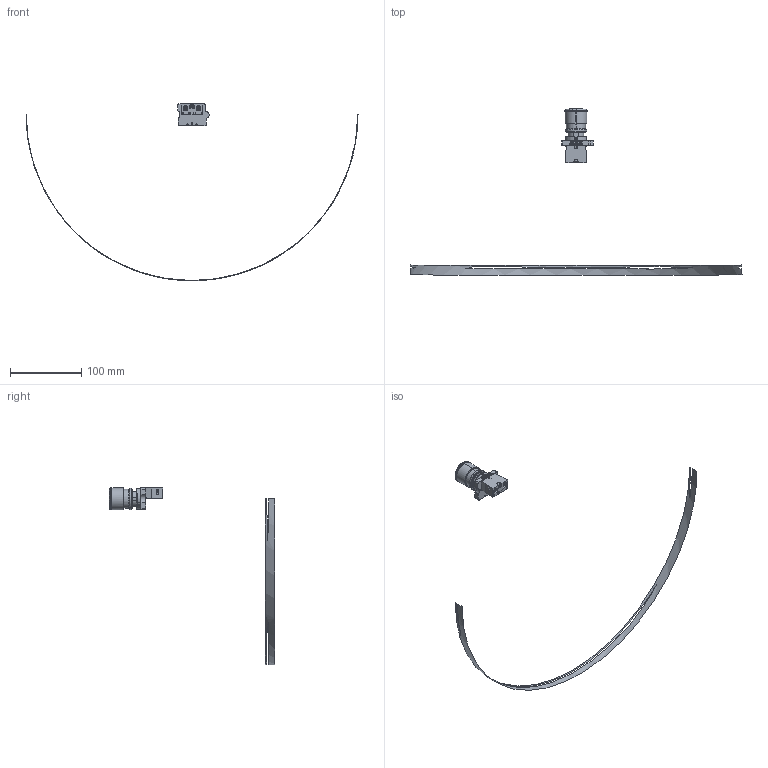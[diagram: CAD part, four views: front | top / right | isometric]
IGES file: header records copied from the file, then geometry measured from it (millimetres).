
Start section: SolidWorks IGES file using analytic representation for surfaces
Global section: file name: D:\X - Arquivos\PROEX\Empresas\P11 - METALTEX\01 - Produtos\IGES\Segunda remessa\P20BXR-R-1B.IGS; native system: SolidWorks 2012; preprocessor: SolidWorks 2012; author: Usuario; date: 180117.120030; units: millimetre
Bounding box: 465.62 x 232.81 x 248.85 mm (x, y, z)
Surface area: 21861.2 mm2 (no closed solid volume)
Topology: 0 solids, 0 shells, 731 faces, 5391 edges, 5390 vertices
Faces by surface type: bspline 649, revolution 82
